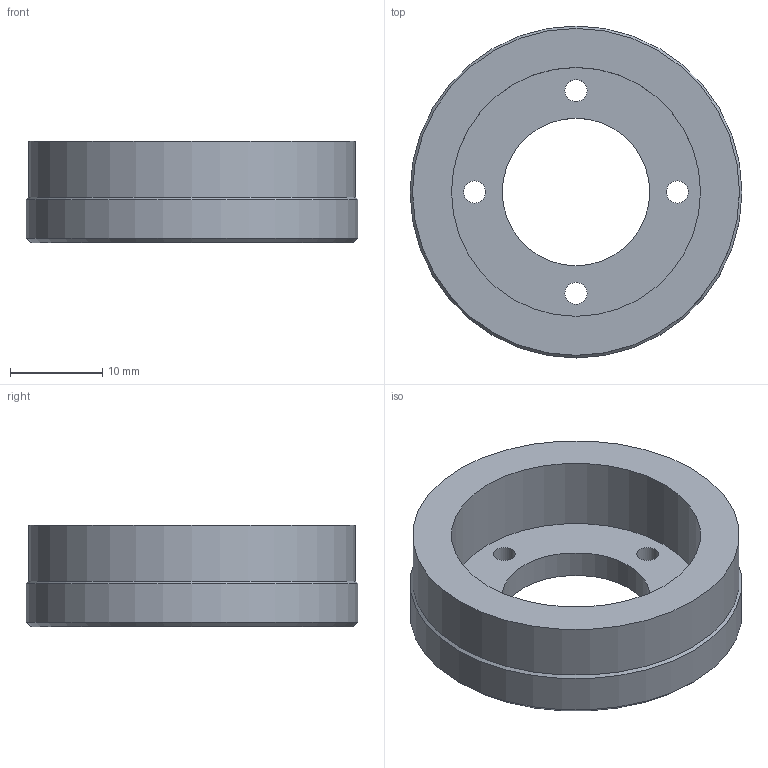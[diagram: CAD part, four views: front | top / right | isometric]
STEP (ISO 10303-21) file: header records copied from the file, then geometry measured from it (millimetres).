
FILE_DESCRIPTION(/* description */ (''),/* implementation_level */ '2;1');
FILE_NAME(/* name */ '38-A_flange_a.stp',/* time_stamp */ '2016-09-16T13:09:02+02:00',/* author */ ('DR. FRITZ FAULHABER GmbH & Co. KG'),/* organization */ ('DR. FRITZ FAULHABER GmbH & Co. KG'),/* preprocessor_version */ 'ST-DEVELOPER v16',/* originating_system */ 'SIEMENS PLM Software NX 10.0',/* authorisation */ '');
FILE_SCHEMA (('AUTOMOTIVE_DESIGN { 1 0 10303 214 3 1 1 1 }'));
Length unit declared in the file: millimetre
Products named in the file (1): huge19E82220l2r0
Bounding box: 36 x 36 x 11 mm (x, y, z)
Volume: 5756.3 mm3; surface area: 3699.6 mm2
Topology: 1 solids, 1 shells, 13 faces, 33 edges, 23 vertices
Faces by surface type: cylinder 8, plane 3, cone 2
Full cylindrical faces by diameter (mm): 2.4 x4, 16 x1, 27 x1, 35.46 x1, 36 x1
Entity records: 356 total; most frequent: DIRECTION 62, CARTESIAN_POINT 48, FACE_BOUND 34, EDGE_LOOP 34, ORIENTED_EDGE 34, AXIS2_PLACEMENT_3D 31, VERTEX_POINT 17, EDGE_CURVE 17
